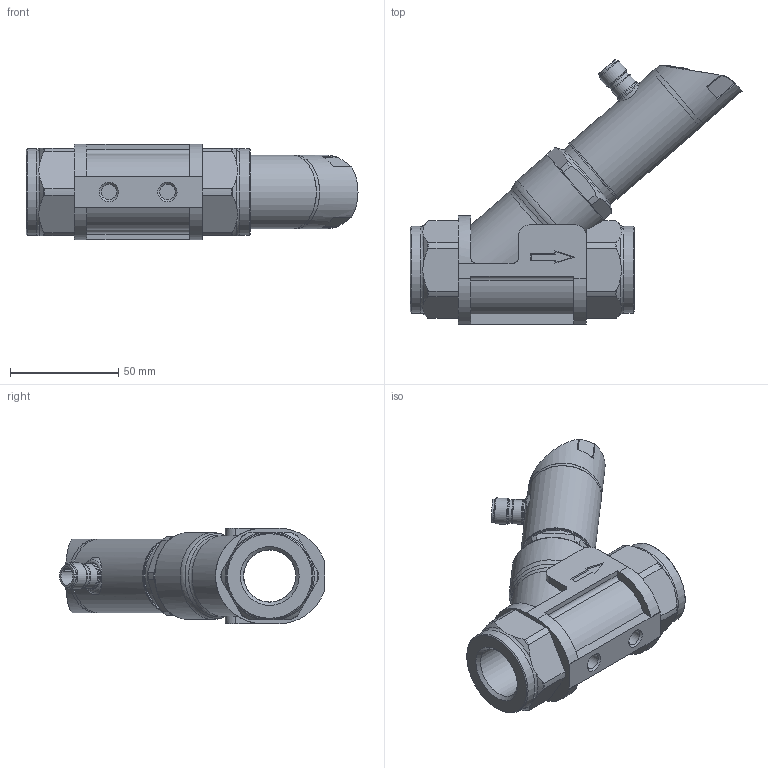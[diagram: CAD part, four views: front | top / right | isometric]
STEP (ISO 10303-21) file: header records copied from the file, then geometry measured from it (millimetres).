
FILE_DESCRIPTION(/* description */ ('STEP AP214'),/* implementation_level */ '2;1');
FILE_NAME(/* name */ 'P_MZ_300_0374',/* time_stamp */ '2023-07-17T09:38:30+02:00',/* author */ ('License CC BY-ND 4.0'),/* organization */ ('CADENAS'),/* preprocessor_version */ 'ST-DEVELOPER v19.3',/* originating_system */ 'PARTsolutions',/* authorisation */ ' ');
FILE_SCHEMA (('AUTOMOTIVE_DESIGN {1 0 10303 214 3 1 1}'));
Length unit declared in the file: millimetre
Products named in the file (3): P_MZ_300_0374; P_MZ_300_0367_P2; P_MZ_300_0374_P1
Assembly tree (2 placements, depth 2):
  P_MZ_300_0374
    P_MZ_300_0367_P2
    P_MZ_300_0374_P1
Bounding box: 153.13 x 122.3 x 44 mm (x, y, z)
Volume: 212480.4 mm3; surface area: 42001.8 mm2
Topology: 2 solids, 2 shells, 270 faces, 691 edges, 452 vertices
Faces by surface type: plane 113, cylinder 95, cone 32, torus 30
Full cylindrical faces by diameter (mm): 3.66 x3, 4.45 x3, 7.188 x2, 8.45 x1, 10.55 x1, 10.8 x1, 11.3 x1, 12 x2, 24 x1, 24.117 x2, 32.87 x1, 34 x2, 34.1 x2, 40 x3
Entity records: 9214 total; most frequent: CARTESIAN_POINT 1896, ORIENTED_EDGE 1276, DIRECTION 1272, EDGE_CURVE 638, AXIS2_PLACEMENT_3D 503, VERTEX_POINT 443, EDGE_LOOP 345, FACE_BOUND 345
